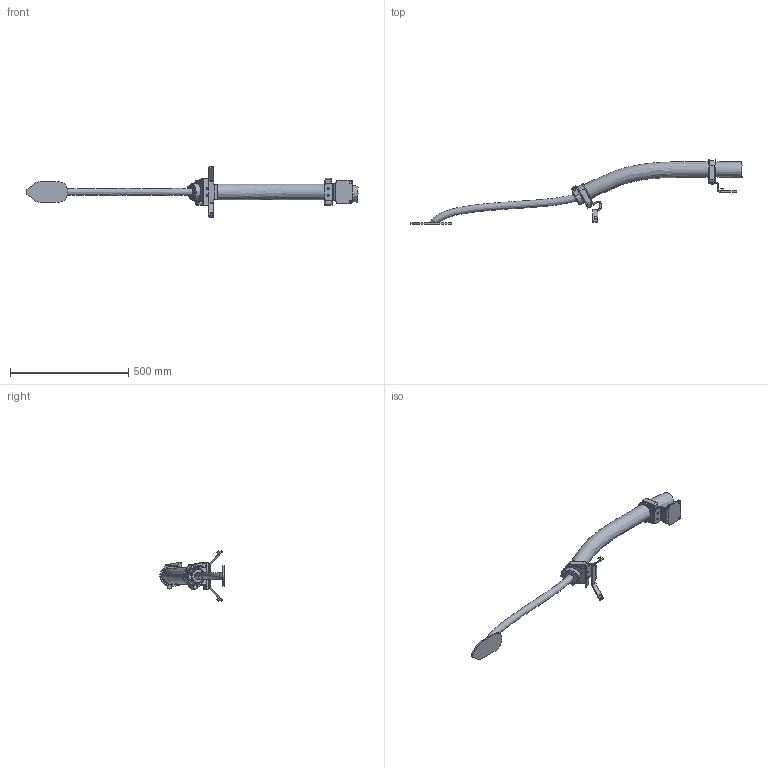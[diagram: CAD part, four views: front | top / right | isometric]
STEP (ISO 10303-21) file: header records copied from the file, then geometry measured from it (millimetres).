
FILE_DESCRIPTION (( 'STEP AP214' ), '1' );
FILE_NAME ('IRB77X0-MH3_All-330_OC_00_LINK04_CABLE.step', '2026-01-28T10:08:28', ( '' ), ( '' ), 'SwSTEP 2.0', 'SolidWorks 2024', '' );
FILE_SCHEMA (( 'AUTOMOTIVE_DESIGN' ));
Length unit declared in the file: millimetre
Products named in the file (1): IRB77X0-MH3_All-330_OC_00_LINK04_CABLE
Bounding box: 1403 x 271.45 x 214.13 mm (x, y, z)
Volume: 3411005.7 mm3; surface area: 343550.5 mm2
Topology: 1 solids, 2 shells, 286 faces, 754 edges, 486 vertices
Faces by surface type: plane 199, cylinder 77, bspline 5, cone 5
Full cylindrical faces by diameter (mm): 6 x1, 7 x4, 9 x2, 10 x1, 13 x4, 19 x2, 62.2 x1, 65 x1, 66 x1
Entity records: 24419 total; most frequent: CARTESIAN_POINT 14304, DIRECTION 1438, ORIENTED_EDGE 1414, EDGE_CURVE 707, VECTOR 506, LINE 506, AXIS2_PLACEMENT_3D 466, VERTEX_POINT 466
